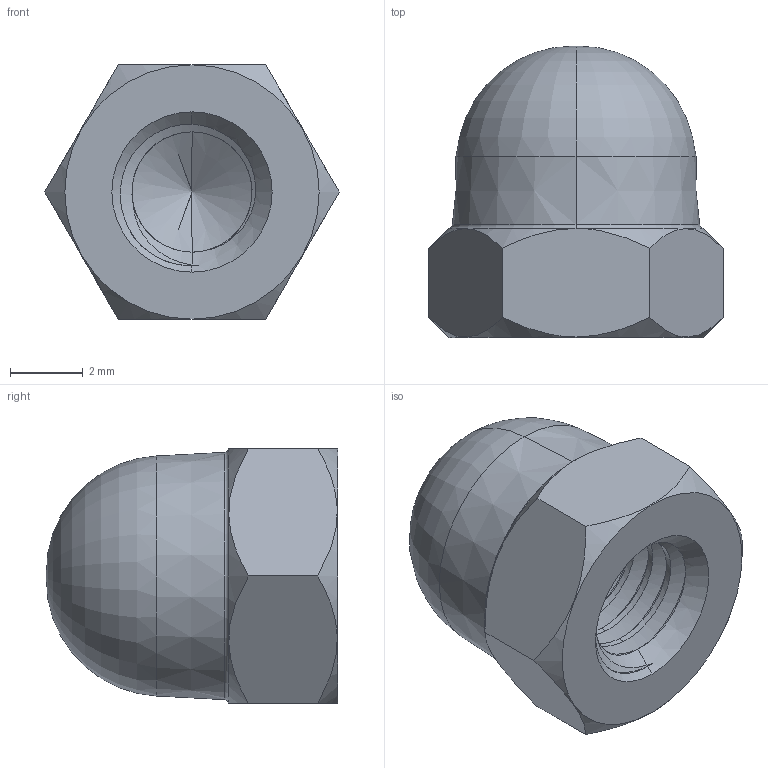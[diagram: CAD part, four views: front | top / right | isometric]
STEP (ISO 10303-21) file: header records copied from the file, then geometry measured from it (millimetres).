
FILE_DESCRIPTION (( 'STEP AP203' ), '1' );
FILE_NAME ('TAN_BAU_M4.STEP', '2026-08-24T08:29:31', ( '' ), ( '' ), 'SwSTEP 2.0', 'SolidWorks 2020', '' );
FILE_SCHEMA (( 'CONFIG_CONTROL_DESIGN' ));
Length unit declared in the file: millimetre
Products named in the file (1): TAN_BAU_M4
Bounding box: 8.08 x 8 x 7 mm (x, y, z)
Volume: 198.3 mm3; surface area: 320.7 mm2
Topology: 1 solids, 1 shells, 42 faces, 111 edges, 70 vertices
Faces by surface type: cylinder 15, cone 11, plane 9, torus 4, bspline 3
Entity records: 2444 total; most frequent: CARTESIAN_POINT 1477, ORIENTED_EDGE 218, DIRECTION 153, EDGE_CURVE 109, VERTEX_POINT 70, AXIS2_PLACEMENT_3D 60, EDGE_LOOP 43, FACE_OUTER_BOUND 42
